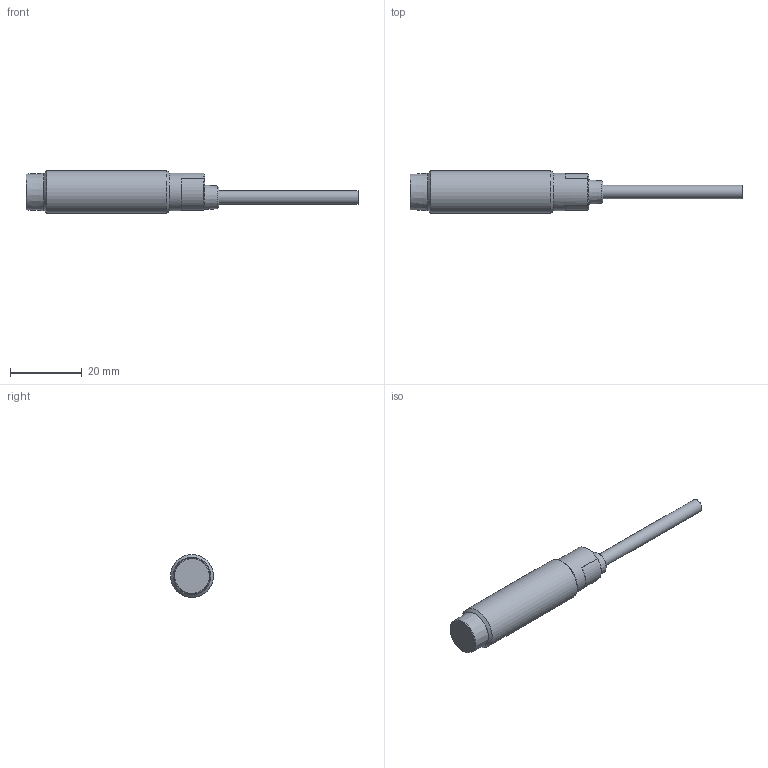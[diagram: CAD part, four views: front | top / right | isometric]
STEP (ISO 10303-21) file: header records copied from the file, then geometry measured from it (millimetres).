
FILE_DESCRIPTION( ( 'Unknown' ), '1' );
FILE_NAME( '//SRVMDFS14/Dati_CAD/Arch_Dis_Prodotti/Definitivi/Conversione_Fig/STP/AM1_AN_2A_fig.stp', 'Unknown', ( 'Unknown' ), ( 'Unknown' ), 'PSStep 16.0.42', 'Unknown', ' ' );
FILE_SCHEMA( ( 'AUTOMOTIVE_DESIGN { 1 0 10303 214 1 1 1 1 }' ) );
Length unit declared in the file: millimetre
Products named in the file (5): Assem1
Assembly tree (4 placements, depth 2):
  Assem1
    (unnamed)
    (unnamed)
    (unnamed)
    (unnamed)
Bounding box: 92.6 x 12 x 12 mm (x, y, z)
Volume: 5740.4 mm3; surface area: 2906 mm2
Topology: 4 solids, 6 shells, 35 faces, 61 edges, 40 vertices
Faces by surface type: plane 21, cylinder 7, cone 6, torus 1
Full cylindrical faces by diameter (mm): 3.75 x1, 3.8 x1, 10.5 x1, 12 x1
Entity records: 834 total; most frequent: DIRECTION 149, CARTESIAN_POINT 125, ORIENTED_EDGE 92, AXIS2_PLACEMENT_3D 64, EDGE_LOOP 48, EDGE_CURVE 46, FACE_OUTER_BOUND 40, VERTEX_POINT 36
